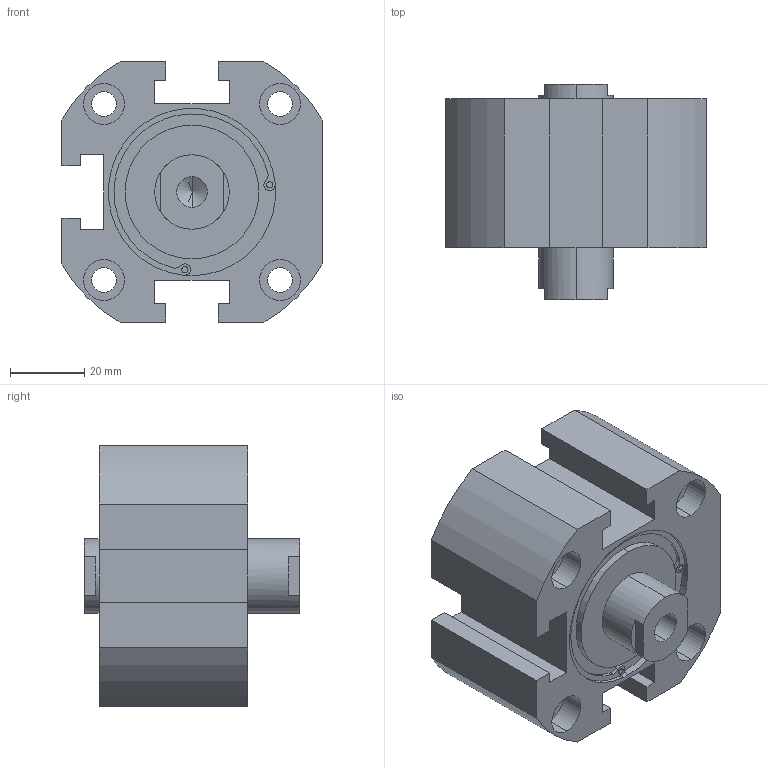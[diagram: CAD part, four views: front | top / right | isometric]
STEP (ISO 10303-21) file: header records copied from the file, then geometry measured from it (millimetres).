
FILE_DESCRIPTION (( 'STEP AP203' ), '1' );
FILE_NAME ('XC#7-50-10.STEP', '2016-05-23T08:26:03', ( '' ), ( '' ), 'SwSTEP 2.0', 'SolidWorks 2014', '' );
FILE_SCHEMA (( 'CONFIG_CONTROL_DESIGN' ));
Length unit declared in the file: millimetre
Products named in the file (1): XC#7-50-10
Bounding box: 70 x 58 x 70 mm (x, y, z)
Volume: 148455.2 mm3; surface area: 29061.5 mm2
Topology: 1 solids, 1 shells, 149 faces, 369 edges, 238 vertices
Faces by surface type: cylinder 77, plane 60, cone 12
Entity records: 4514 total; most frequent: DIRECTION 831, CARTESIAN_POINT 749, ORIENTED_EDGE 722, EDGE_CURVE 361, AXIS2_PLACEMENT_3D 320, VERTEX_POINT 238, VECTOR 191, LINE 191
